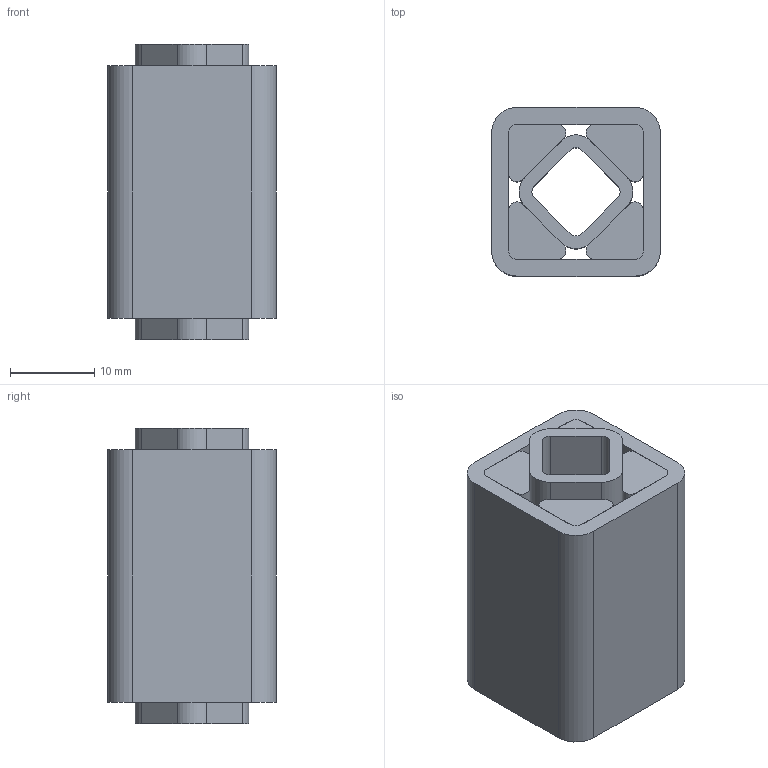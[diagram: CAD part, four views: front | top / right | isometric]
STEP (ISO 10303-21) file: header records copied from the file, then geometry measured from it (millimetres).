
FILE_DESCRIPTION((''),'2;1');
FILE_NAME('D:\ROSTA\Gummifederelemente\3D\DR-S11x30_01021002.stp','2005-02-01T15:29:13',('Administrator'),(''),'Autodesk Inventor 8','Autodesk Inventor 8','');
FILE_SCHEMA(('AUTOMOTIVE_DESIGN { 1 0 10303 214 1 1 1 1 }'));
Length unit declared in the file: millimetre
Products named in the file (4): Baugruppe3; 4.4.3725-005; 4.4.3725-006; 4.4.3725-007
Assembly tree (6 placements, depth 2):
  Baugruppe3
    4.4.3725-005
    4.4.3725-006
    4.4.3725-007  x4
Bounding box: 20 x 20 x 35 mm (x, y, z)
Volume: 9684.7 mm3; surface area: 9915.5 mm2
Topology: 6 solids, 6 shells, 68 faces, 168 edges, 112 vertices
Faces by surface type: plane 40, cylinder 28
Entity records: 1491 total; most frequent: DIRECTION 260, CARTESIAN_POINT 244, ORIENTED_EDGE 228, EDGE_CURVE 114, AXIS2_PLACEMENT_3D 92, VERTEX_POINT 76, VECTOR 76, LINE 76
